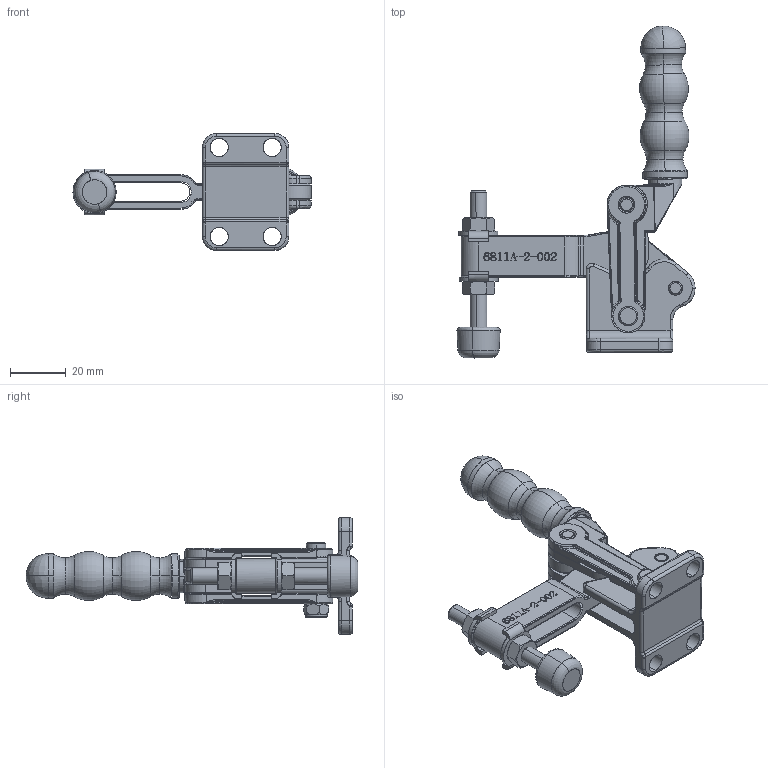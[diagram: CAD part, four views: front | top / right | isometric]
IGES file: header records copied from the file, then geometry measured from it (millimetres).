
Start section: Comment
Global section: file name: 70300-b.igs; native system:  By Spatial Corp.; preprocessor: XPlus PS/IGES 3.0; author: Author; organization: Title; date: 20050217.131258; units: inch
Bounding box: 85.49 x 119.21 x 42 mm (x, y, z)
Surface area: 31588.4 mm2 (no closed solid volume)
Topology: 0 solids, 0 shells, 945 faces, 4865 edges, 4725 vertices
Faces by surface type: revolution 604, extrusion 306, bspline 35
